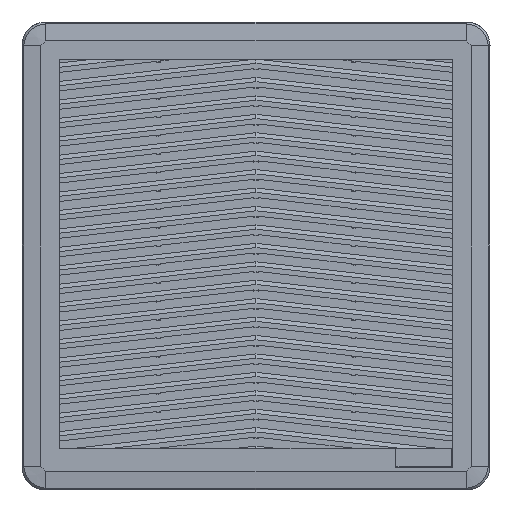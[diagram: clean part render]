
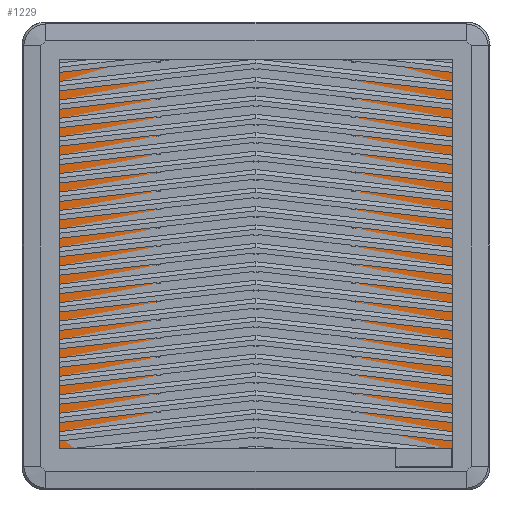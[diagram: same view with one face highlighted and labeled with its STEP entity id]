
A CAD part, top view. The second image highlights one B-rep face of the part: STEP entity #1229.
In plain terms, the highlighted planar face has unit normal (0, 0, 1).
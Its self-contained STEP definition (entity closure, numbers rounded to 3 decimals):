
#1229=ADVANCED_FACE('',(#2156),#16302,.T.);
#2156=FACE_OUTER_BOUND('',#3085,.T.);
#3085=EDGE_LOOP('',(#6978,#6979,#6980,#6981,#6982,#6983,#6984,#6985));
#6978=ORIENTED_EDGE('',*,*,#10252,.F.);
#6979=ORIENTED_EDGE('',*,*,#10254,.T.);
#6980=ORIENTED_EDGE('',*,*,#10258,.F.);
#6981=ORIENTED_EDGE('',*,*,#10260,.T.);
#6982=ORIENTED_EDGE('',*,*,#10262,.F.);
#6983=ORIENTED_EDGE('',*,*,#10265,.F.);
#6984=ORIENTED_EDGE('',*,*,#10267,.F.);
#6985=ORIENTED_EDGE('',*,*,#10249,.T.);
#10249=EDGE_CURVE('',#14933,#14932,#13103,.T.);
#10252=EDGE_CURVE('',#14934,#14932,#11262,.T.);
#10254=EDGE_CURVE('',#14934,#14935,#13106,.T.);
#10258=EDGE_CURVE('',#14936,#14935,#11265,.T.);
#10260=EDGE_CURVE('',#14936,#14937,#13110,.T.);
#10262=EDGE_CURVE('',#14938,#14937,#11266,.T.);
#10265=EDGE_CURVE('',#14939,#14938,#13113,.T.);
#10267=EDGE_CURVE('',#14933,#14939,#11269,.T.);
#11262=(
BOUNDED_CURVE()
B_SPLINE_CURVE(2,(#25500,#25501,#25502),.UNSPECIFIED.,.F.,.F.)
B_SPLINE_CURVE_WITH_KNOTS((3,3),(0.,16.493),.UNSPECIFIED.)
CURVE()
GEOMETRIC_REPRESENTATION_ITEM()
RATIONAL_B_SPLINE_CURVE((1.,0.707,1.))
REPRESENTATION_ITEM('')
);
#11265=(
BOUNDED_CURVE()
B_SPLINE_CURVE(2,(#25515,#25516,#25517),.UNSPECIFIED.,.F.,.F.)
B_SPLINE_CURVE_WITH_KNOTS((3,3),(0.,16.493),.UNSPECIFIED.)
CURVE()
GEOMETRIC_REPRESENTATION_ITEM()
RATIONAL_B_SPLINE_CURVE((1.,0.707,1.))
REPRESENTATION_ITEM('')
);
#11266=(
BOUNDED_CURVE()
B_SPLINE_CURVE(2,(#25524,#25525,#25526),.UNSPECIFIED.,.F.,.F.)
B_SPLINE_CURVE_WITH_KNOTS((3,3),(0.,16.493),.UNSPECIFIED.)
CURVE()
GEOMETRIC_REPRESENTATION_ITEM()
RATIONAL_B_SPLINE_CURVE((1.,0.707,1.))
REPRESENTATION_ITEM('')
);
#11269=(
BOUNDED_CURVE()
B_SPLINE_CURVE(2,(#25537,#25538,#25539),.UNSPECIFIED.,.F.,.F.)
B_SPLINE_CURVE_WITH_KNOTS((3,3),(0.,16.493),.UNSPECIFIED.)
CURVE()
GEOMETRIC_REPRESENTATION_ITEM()
RATIONAL_B_SPLINE_CURVE((1.,0.707,1.))
REPRESENTATION_ITEM('')
);
#13103=B_SPLINE_CURVE_WITH_KNOTS('',1,(#25494,#25495),.UNSPECIFIED.,.F.,
 .F.,(2,2),(-224.,0.),.UNSPECIFIED.);
#13106=B_SPLINE_CURVE_WITH_KNOTS('',1,(#25506,#25507),.UNSPECIFIED.,.F.,
 .F.,(2,2),(-226.5,0.),.UNSPECIFIED.);
#13110=B_SPLINE_CURVE_WITH_KNOTS('',1,(#25520,#25521),.UNSPECIFIED.,.F.,
 .F.,(2,2),(-224.,0.),.UNSPECIFIED.);
#13113=B_SPLINE_CURVE_WITH_KNOTS('',1,(#25532,#25533),.UNSPECIFIED.,.F.,
 .F.,(2,2),(0.,226.5),.UNSPECIFIED.);
#14932=VERTEX_POINT('',#25252);
#14933=VERTEX_POINT('',#25253);
#14934=VERTEX_POINT('',#25254);
#14935=VERTEX_POINT('',#25255);
#14936=VERTEX_POINT('',#25256);
#14937=VERTEX_POINT('',#25257);
#14938=VERTEX_POINT('',#25258);
#14939=VERTEX_POINT('',#25259);
#16302=PLANE('',#17301);
#17301=AXIS2_PLACEMENT_3D('',#25171,#18124,$);
#18124=DIRECTION('',(0.,0.,1.));
#25171=CARTESIAN_POINT('',(-146.96,-147.29,6.009));
#25252=CARTESIAN_POINT('',(-111.96,124.96,6.009));
#25253=CARTESIAN_POINT('',(112.04,124.96,6.009));
#25254=CARTESIAN_POINT('',(-122.46,114.46,6.009));
#25255=CARTESIAN_POINT('',(-122.46,-112.04,6.009));
#25256=CARTESIAN_POINT('',(-111.96,-122.54,6.009));
#25257=CARTESIAN_POINT('',(112.04,-122.54,6.009));
#25258=CARTESIAN_POINT('',(122.54,-112.04,6.009));
#25259=CARTESIAN_POINT('',(122.54,114.46,6.009));
#25494=CARTESIAN_POINT('',(112.04,124.96,6.009));
#25495=CARTESIAN_POINT('',(-111.96,124.96,6.009));
#25500=CARTESIAN_POINT('',(-122.46,114.46,6.009));
#25501=CARTESIAN_POINT('',(-122.46,124.96,6.009));
#25502=CARTESIAN_POINT('',(-111.96,124.96,6.009));
#25506=CARTESIAN_POINT('',(-122.46,114.46,6.009));
#25507=CARTESIAN_POINT('',(-122.46,-112.04,6.009));
#25515=CARTESIAN_POINT('',(-111.96,-122.54,6.009));
#25516=CARTESIAN_POINT('',(-122.46,-122.54,6.009));
#25517=CARTESIAN_POINT('',(-122.46,-112.04,6.009));
#25520=CARTESIAN_POINT('',(-111.96,-122.54,6.009));
#25521=CARTESIAN_POINT('',(112.04,-122.54,6.009));
#25524=CARTESIAN_POINT('',(122.54,-112.04,6.009));
#25525=CARTESIAN_POINT('',(122.54,-122.54,6.009));
#25526=CARTESIAN_POINT('',(112.04,-122.54,6.009));
#25532=CARTESIAN_POINT('',(122.54,114.46,6.009));
#25533=CARTESIAN_POINT('',(122.54,-112.04,6.009));
#25537=CARTESIAN_POINT('',(112.04,124.96,6.009));
#25538=CARTESIAN_POINT('',(122.54,124.96,6.009));
#25539=CARTESIAN_POINT('',(122.54,114.46,6.009));
